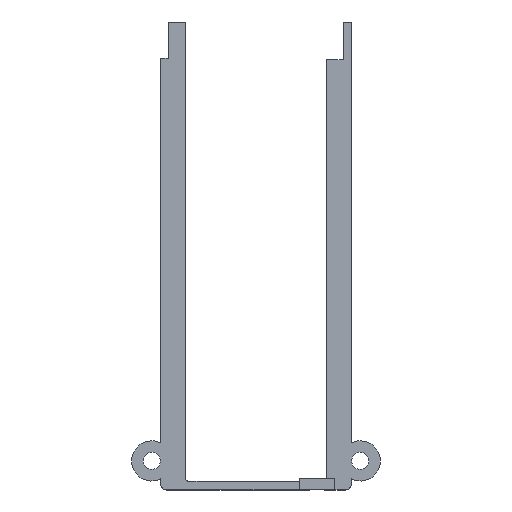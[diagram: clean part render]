
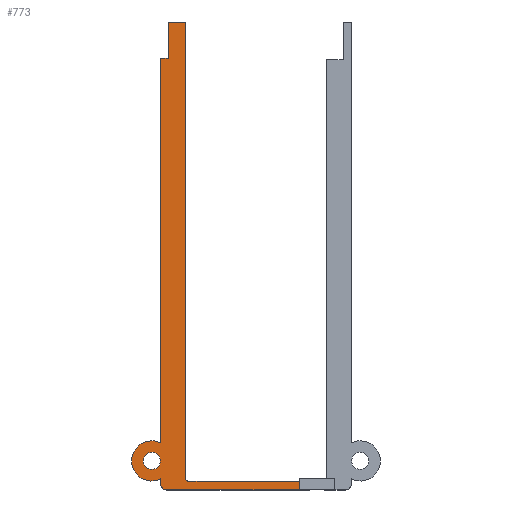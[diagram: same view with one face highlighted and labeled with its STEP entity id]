
A CAD part, top view. The second image highlights one B-rep face of the part: STEP entity #773.
In plain terms, the highlighted planar face has unit normal (0, 0, 1).
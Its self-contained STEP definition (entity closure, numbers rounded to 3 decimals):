
#30=FACE_BOUND('',#121,.T.);
#48=CIRCLE('',#844,0.5);
#49=CIRCLE('',#845,2.7);
#50=CIRCLE('',#846,0.8);
#51=CIRCLE('',#847,1.15);
#78=FACE_OUTER_BOUND('',#120,.T.);
#120=EDGE_LOOP('',(#658,#659,#660,#661,#662,#663,#664,#665,#666,#667,#668,
#669));
#121=EDGE_LOOP('',(#670));
#145=LINE('',#1098,#234);
#191=LINE('',#1222,#280);
#197=LINE('',#1235,#286);
#207=LINE('',#1267,#296);
#208=LINE('',#1269,#297);
#209=LINE('',#1271,#298);
#210=LINE('',#1273,#299);
#211=LINE('',#1275,#300);
#212=LINE('',#1279,#301);
#234=VECTOR('',#879,10.);
#280=VECTOR('',#987,1.);
#286=VECTOR('',#997,1.);
#296=VECTOR('',#1025,1.);
#297=VECTOR('',#1026,1.);
#298=VECTOR('',#1027,1.);
#299=VECTOR('',#1028,1.);
#300=VECTOR('',#1029,1.);
#301=VECTOR('',#1032,1.);
#322=VERTEX_POINT('',#1095);
#323=VERTEX_POINT('',#1097);
#360=VERTEX_POINT('',#1221);
#365=VERTEX_POINT('',#1233);
#377=VERTEX_POINT('',#1264);
#378=VERTEX_POINT('',#1266);
#379=VERTEX_POINT('',#1268);
#380=VERTEX_POINT('',#1270);
#381=VERTEX_POINT('',#1272);
#382=VERTEX_POINT('',#1274);
#383=VERTEX_POINT('',#1276);
#384=VERTEX_POINT('',#1278);
#385=VERTEX_POINT('',#1281);
#397=EDGE_CURVE('',#323,#322,#145,.T.);
#455=EDGE_CURVE('',#360,#323,#191,.T.);
#462=EDGE_CURVE('',#322,#365,#197,.T.);
#477=EDGE_CURVE('',#365,#377,#48,.T.);
#478=EDGE_CURVE('',#377,#378,#207,.T.);
#479=EDGE_CURVE('',#378,#379,#208,.T.);
#480=EDGE_CURVE('',#380,#379,#209,.T.);
#481=EDGE_CURVE('',#380,#381,#210,.T.);
#482=EDGE_CURVE('',#382,#381,#211,.T.);
#483=EDGE_CURVE('',#382,#383,#49,.T.);
#484=EDGE_CURVE('',#384,#383,#212,.T.);
#485=EDGE_CURVE('',#360,#384,#50,.T.);
#486=EDGE_CURVE('',#385,#385,#51,.T.);
#658=ORIENTED_EDGE('',*,*,#397,.T.);
#659=ORIENTED_EDGE('',*,*,#462,.T.);
#660=ORIENTED_EDGE('',*,*,#477,.T.);
#661=ORIENTED_EDGE('',*,*,#478,.T.);
#662=ORIENTED_EDGE('',*,*,#479,.T.);
#663=ORIENTED_EDGE('',*,*,#480,.F.);
#664=ORIENTED_EDGE('',*,*,#481,.T.);
#665=ORIENTED_EDGE('',*,*,#482,.F.);
#666=ORIENTED_EDGE('',*,*,#483,.T.);
#667=ORIENTED_EDGE('',*,*,#484,.F.);
#668=ORIENTED_EDGE('',*,*,#485,.F.);
#669=ORIENTED_EDGE('',*,*,#455,.T.);
#670=ORIENTED_EDGE('',*,*,#486,.F.);
#739=PLANE('',#843);
#773=ADVANCED_FACE('',(#78,#30),#739,.T.);
#843=AXIS2_PLACEMENT_3D('',#1263,#1021,#1022);
#844=AXIS2_PLACEMENT_3D('',#1265,#1023,#1024);
#845=AXIS2_PLACEMENT_3D('',#1277,#1030,#1031);
#846=AXIS2_PLACEMENT_3D('',#1280,#1033,#1034);
#847=AXIS2_PLACEMENT_3D('',#1282,#1035,#1036);
#879=DIRECTION('',(0.,1.,0.));
#987=DIRECTION('',(1.,0.,0.));
#997=DIRECTION('',(-1.,0.,0.));
#1021=DIRECTION('center_axis',(0.,0.,1.));
#1022=DIRECTION('ref_axis',(1.,0.,0.));
#1023=DIRECTION('center_axis',(0.,0.,-1.));
#1024=DIRECTION('ref_axis',(1.,0.,0.));
#1025=DIRECTION('',(0.,1.,0.));
#1026=DIRECTION('',(-1.,0.,0.));
#1027=DIRECTION('',(0.,1.,0.));
#1028=DIRECTION('',(-1.,0.,0.));
#1029=DIRECTION('',(0.,1.,0.));
#1030=DIRECTION('center_axis',(0.,0.,1.));
#1031=DIRECTION('ref_axis',(1.,0.,0.));
#1032=DIRECTION('',(0.,1.,0.));
#1033=DIRECTION('center_axis',(0.,0.,-1.));
#1034=DIRECTION('ref_axis',(-1.,0.,0.));
#1035=DIRECTION('center_axis',(0.,0.,1.));
#1036=DIRECTION('ref_axis',(1.,0.,0.));
#1095=CARTESIAN_POINT('',(5.8,-34.75,-19.13));
#1097=CARTESIAN_POINT('',(5.8,-35.9,-19.13));
#1098=CARTESIAN_POINT('',(5.8,-9.325,-19.13));
#1221=CARTESIAN_POINT('',(-12.,-35.9,-19.13));
#1222=CARTESIAN_POINT('',(0.,-35.9,-19.13));
#1233=CARTESIAN_POINT('',(-9.,-34.75,-19.13));
#1235=CARTESIAN_POINT('',(-4.5,-34.75,-19.13));
#1263=CARTESIAN_POINT('Origin',(0.,16.5,-19.13));
#1264=CARTESIAN_POINT('',(-9.5,-34.25,-19.13));
#1265=CARTESIAN_POINT('Origin',(-9.,-34.25,-19.13));
#1266=CARTESIAN_POINT('',(-9.5,26.95,-19.13));
#1267=CARTESIAN_POINT('',(-9.5,-34.25,-19.13));
#1268=CARTESIAN_POINT('',(-11.8,26.95,-19.13));
#1269=CARTESIAN_POINT('',(-15.,26.95,-19.13));
#1270=CARTESIAN_POINT('',(-11.8,22.09,-19.13));
#1271=CARTESIAN_POINT('',(-11.8,19.295,-19.13));
#1272=CARTESIAN_POINT('',(-12.8,22.09,-19.13));
#1273=CARTESIAN_POINT('',(-9.1,22.09,-19.13));
#1274=CARTESIAN_POINT('',(-12.8,-29.581,-19.13));
#1275=CARTESIAN_POINT('',(-12.8,16.5,-19.13));
#1276=CARTESIAN_POINT('',(-12.8,-34.419,-19.13));
#1277=CARTESIAN_POINT('Origin',(-14.,-32.,-19.13));
#1278=CARTESIAN_POINT('',(-12.8,-35.1,-19.13));
#1279=CARTESIAN_POINT('',(-12.8,16.5,-19.13));
#1280=CARTESIAN_POINT('Origin',(-12.,-35.1,-19.13));
#1281=CARTESIAN_POINT('',(-15.15,-32.,-19.13));
#1282=CARTESIAN_POINT('Origin',(-14.,-32.,-19.13));
